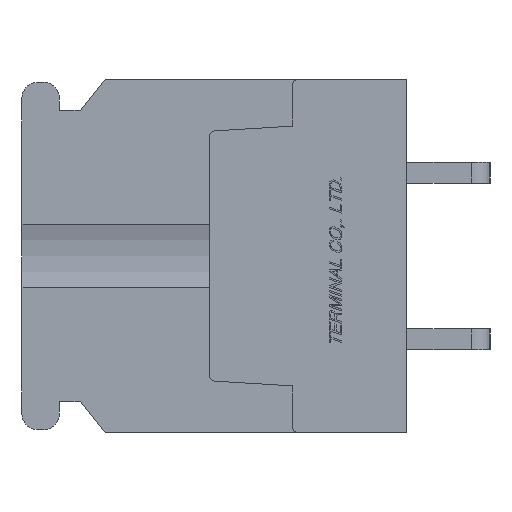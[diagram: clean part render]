
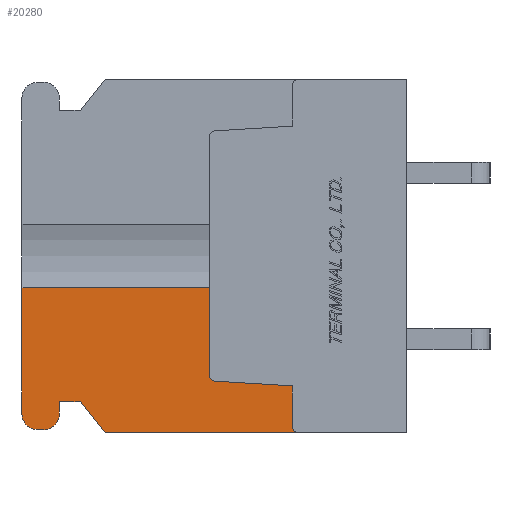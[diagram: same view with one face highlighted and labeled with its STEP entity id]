
A CAD part, left-side view. The second image highlights one B-rep face of the part: STEP entity #20280.
In plain terms, the highlighted planar face has unit normal (-1, 0, 0).
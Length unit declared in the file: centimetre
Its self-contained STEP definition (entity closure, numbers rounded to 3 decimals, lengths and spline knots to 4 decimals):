
#2511=VECTOR('',#25182,1.);
#2512=VECTOR('',#25183,1.);
#2513=VECTOR('',#25184,1.);
#2514=VECTOR('',#25187,1.);
#2515=VECTOR('',#25190,1.);
#2516=VECTOR('',#25191,1.);
#2517=VECTOR('',#25192,1.);
#2518=VECTOR('',#25193,1.);
#2519=VECTOR('',#25196,1.);
#2520=VECTOR('',#25197,1.);
#4676=LINE('',#31622,#2511);
#4677=LINE('',#31625,#2512);
#4678=LINE('',#31627,#2513);
#4679=LINE('',#31631,#2514);
#4680=LINE('',#31635,#2515);
#4681=LINE('',#31637,#2516);
#4682=LINE('',#31639,#2517);
#4683=LINE('',#31641,#2518);
#4684=LINE('',#31645,#2519);
#4685=LINE('',#31647,#2520);
#6791=VERTEX_POINT('',#31623);
#6792=VERTEX_POINT('',#31624);
#6793=VERTEX_POINT('',#31626);
#6794=VERTEX_POINT('',#31628);
#6795=VERTEX_POINT('',#31630);
#6796=VERTEX_POINT('',#31632);
#6797=VERTEX_POINT('',#31634);
#6798=VERTEX_POINT('',#31636);
#6799=VERTEX_POINT('',#31638);
#6800=VERTEX_POINT('',#31640);
#6801=VERTEX_POINT('',#31642);
#6802=VERTEX_POINT('',#31644);
#6803=VERTEX_POINT('',#31646);
#6804=VERTEX_POINT('',#31648);
#7653=CIRCLE('',#34657,0.075);
#7654=CIRCLE('',#34658,0.075);
#7655=CIRCLE('',#34659,0.03);
#7656=CIRCLE('',#34660,0.03);
#10162=EDGE_CURVE('',#6791,#6792,#4676,.T.);
#10163=EDGE_CURVE('',#6791,#6793,#4677,.T.);
#10164=EDGE_CURVE('',#6794,#6793,#4678,.T.);
#10165=EDGE_CURVE('',#6795,#6794,#7653,.T.);
#10166=EDGE_CURVE('',#6796,#6795,#4679,.T.);
#10167=EDGE_CURVE('',#6797,#6796,#7654,.T.);
#10168=EDGE_CURVE('',#6798,#6797,#4680,.T.);
#10169=EDGE_CURVE('',#6799,#6798,#4681,.T.);
#10170=EDGE_CURVE('',#6800,#6799,#4682,.T.);
#10171=EDGE_CURVE('',#6801,#6800,#4683,.T.);
#10172=EDGE_CURVE('',#6802,#6801,#7655,.T.);
#10173=EDGE_CURVE('',#6803,#6802,#4684,.T.);
#10174=EDGE_CURVE('',#6804,#6803,#4685,.T.);
#10175=EDGE_CURVE('',#6792,#6804,#7656,.T.);
#15533=ORIENTED_EDGE('',*,*,#10162,.F.);
#15534=ORIENTED_EDGE('',*,*,#10163,.T.);
#15535=ORIENTED_EDGE('',*,*,#10164,.F.);
#15536=ORIENTED_EDGE('',*,*,#10165,.F.);
#15537=ORIENTED_EDGE('',*,*,#10166,.F.);
#15538=ORIENTED_EDGE('',*,*,#10167,.F.);
#15539=ORIENTED_EDGE('',*,*,#10168,.F.);
#15540=ORIENTED_EDGE('',*,*,#10169,.F.);
#15541=ORIENTED_EDGE('',*,*,#10170,.F.);
#15542=ORIENTED_EDGE('',*,*,#10171,.F.);
#15543=ORIENTED_EDGE('',*,*,#10172,.F.);
#15544=ORIENTED_EDGE('',*,*,#10173,.F.);
#15545=ORIENTED_EDGE('',*,*,#10174,.F.);
#15546=ORIENTED_EDGE('',*,*,#10175,.F.);
#17855=EDGE_LOOP('',(#15533,#15534,#15535,#15536,#15537,#15538,#15539,#15540,
#15541,#15542,#15543,#15544,#15545,#15546));
#19113=FACE_BOUND('',#17855,.T.);
#20280=ADVANCED_FACE('',(#19113),#21096,.F.);
#21096=PLANE('',#34656);
#25181=DIRECTION('',(1.,0.,0.));
#25182=DIRECTION('',(0.,0.,-1.));
#25183=DIRECTION('',(0.,1.,0.));
#25184=DIRECTION('',(0.,0.,1.));
#25185=DIRECTION('',(1.,0.,0.));
#25186=DIRECTION('',(0.,0.,-0.075));
#25187=DIRECTION('',(0.,1.,0.));
#25188=DIRECTION('',(1.,0.,0.));
#25189=DIRECTION('',(0.,0.,-0.075));
#25190=DIRECTION('',(0.,0.,-1.));
#25191=DIRECTION('',(0.,1.,0.));
#25192=DIRECTION('',(0.,0.625,0.781));
#25193=DIRECTION('',(0.,1.,0.));
#25194=DIRECTION('',(-1.,0.,0.));
#25195=DIRECTION('',(0.,0.,0.03));
#25196=DIRECTION('',(0.,0.,-1.));
#25197=DIRECTION('',(0.,-0.998,-0.061));
#25198=DIRECTION('',(-1.,0.,0.));
#25199=DIRECTION('',(0.,0.,0.03));
#31621=CARTESIAN_POINT('',(-1.1,0.9454,0.));
#31622=CARTESIAN_POINT('',(-1.1,0.95,0.5718));
#31623=CARTESIAN_POINT('',(-1.1,0.95,-0.1521));
#31624=CARTESIAN_POINT('',(-1.1,0.95,-0.5718));
#31625=CARTESIAN_POINT('',(-1.1,1.4,-0.1521));
#31626=CARTESIAN_POINT('',(-1.1,1.85,-0.1521));
#31627=CARTESIAN_POINT('',(-1.1,1.85,-0.76));
#31628=CARTESIAN_POINT('',(-1.1,1.85,-0.76));
#31629=CARTESIAN_POINT('',(-1.1,1.775,-0.76));
#31630=CARTESIAN_POINT('',(-1.1,1.775,-0.835));
#31631=CARTESIAN_POINT('',(-1.1,1.745,-0.835));
#31632=CARTESIAN_POINT('',(-1.1,1.745,-0.835));
#31633=CARTESIAN_POINT('',(-1.1,1.745,-0.76));
#31634=CARTESIAN_POINT('',(-1.1,1.67,-0.76));
#31635=CARTESIAN_POINT('',(-1.1,1.67,-0.7));
#31636=CARTESIAN_POINT('',(-1.1,1.67,-0.7));
#31637=CARTESIAN_POINT('',(-1.1,1.57,-0.7));
#31638=CARTESIAN_POINT('',(-1.1,1.57,-0.7));
#31639=CARTESIAN_POINT('',(-1.1,1.45,-0.85));
#31640=CARTESIAN_POINT('',(-1.1,1.45,-0.85));
#31641=CARTESIAN_POINT('',(-1.1,0.,-0.85));
#31642=CARTESIAN_POINT('',(-1.1,0.52,-0.85));
#31643=CARTESIAN_POINT('',(-1.1,0.52,-0.82));
#31644=CARTESIAN_POINT('',(-1.1,0.55,-0.82));
#31645=CARTESIAN_POINT('',(-1.1,0.55,-0.6245));
#31646=CARTESIAN_POINT('',(-1.1,0.55,-0.6245));
#31647=CARTESIAN_POINT('',(-1.1,0.9218,-0.6017));
#31648=CARTESIAN_POINT('',(-1.1,0.9218,-0.6017));
#31649=CARTESIAN_POINT('',(-1.1,0.92,-0.5718));
#34656=AXIS2_PLACEMENT_3D('',#31621,#25181,$);
#34657=AXIS2_PLACEMENT_3D('',#31629,#25185,#25186);
#34658=AXIS2_PLACEMENT_3D('',#31633,#25188,#25189);
#34659=AXIS2_PLACEMENT_3D('',#31643,#25194,#25195);
#34660=AXIS2_PLACEMENT_3D('',#31649,#25198,#25199);
